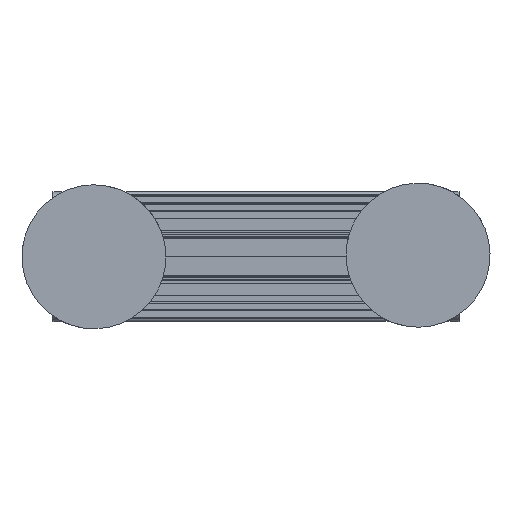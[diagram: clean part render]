
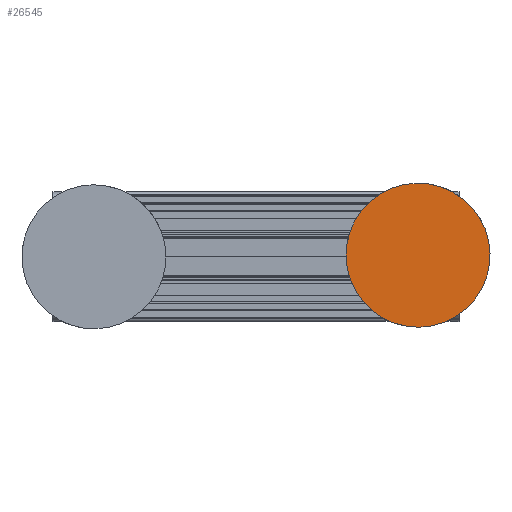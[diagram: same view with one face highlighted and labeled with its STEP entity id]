
A CAD part, front view. The second image highlights one B-rep face of the part: STEP entity #26545.
In plain terms, the highlighted planar face has unit normal (0, -1, 0).
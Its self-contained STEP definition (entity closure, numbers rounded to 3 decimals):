
#1545 = CARTESIAN_POINT ( 'NONE',  ( 0., 0., -50. ) ) ;
#13291 = CIRCLE ( 'NONE', #22537, 50. ) ;
#15748 = DIRECTION ( 'NONE',  ( 0., 1., 0. ) ) ;
#18445 = PLANE ( 'NONE',  #53752 ) ;
#18593 = AXIS2_PLACEMENT_3D ( 'NONE', #41626, #15748, #45992 ) ;
#18612 = DIRECTION ( 'NONE',  ( 0., -1., 0. ) ) ;
#20018 = CARTESIAN_POINT ( 'NONE',  ( 0., 0., 50. ) ) ;
#20336 = DIRECTION ( 'NONE',  ( 0., 1., 0. ) ) ;
#22537 = AXIS2_PLACEMENT_3D ( 'NONE', #46223, #20336, #50581 ) ;
#26117 = VERTEX_POINT ( 'NONE', #20018 ) ;
#26545 = ADVANCED_FACE ( 'NONE', ( #55147 ), #18445, .T. ) ;
#27275 = EDGE_CURVE ( 'NONE', #26117, #35733, #40828, .T. ) ;
#29185 = ORIENTED_EDGE ( 'NONE', *, *, #53850, .F. ) ;
#35733 = VERTEX_POINT ( 'NONE', #1545 ) ;
#40828 = CIRCLE ( 'NONE', #18593, 50. ) ;
#41626 = CARTESIAN_POINT ( 'NONE',  ( 0., 0., 0. ) ) ;
#44522 = CARTESIAN_POINT ( 'NONE',  ( -50., 0., 0. ) ) ;
#45992 = DIRECTION ( 'NONE',  ( 0., 0., 1. ) ) ;
#46223 = CARTESIAN_POINT ( 'NONE',  ( 0., 0., 0. ) ) ;
#48879 = DIRECTION ( 'NONE',  ( 0., 0., -1. ) ) ;
#49946 = ORIENTED_EDGE ( 'NONE', *, *, #27275, .F. ) ;
#50581 = DIRECTION ( 'NONE',  ( 0., 0., 1. ) ) ;
#53752 = AXIS2_PLACEMENT_3D ( 'NONE', #44522, #18612, #48879 ) ;
#53850 = EDGE_CURVE ( 'NONE', #35733, #26117, #13291, .T. ) ;
#54557 = EDGE_LOOP ( 'NONE', ( #49946, #29185 ) ) ;
#55147 = FACE_OUTER_BOUND ( 'NONE', #54557, .T. ) ;
